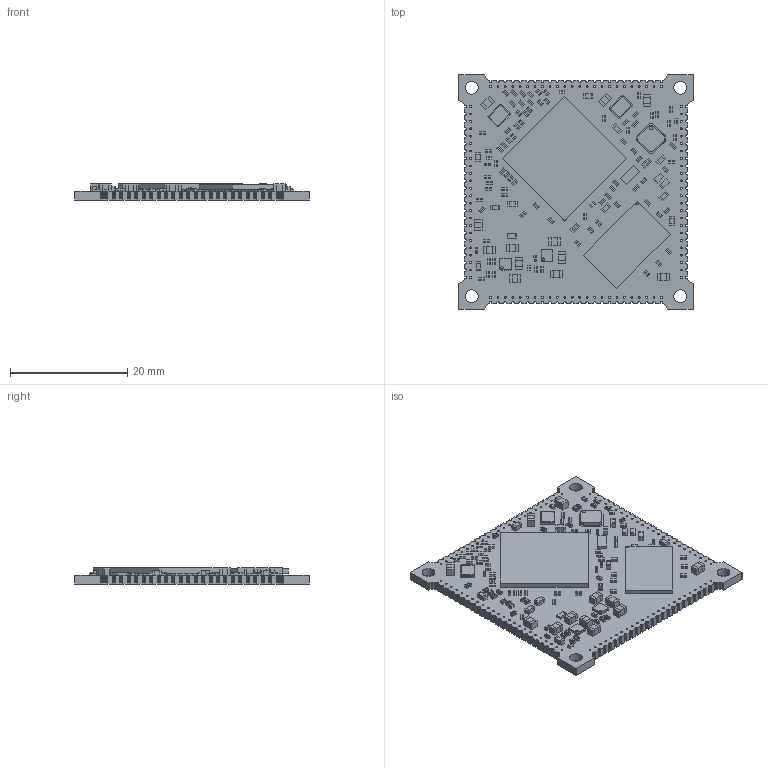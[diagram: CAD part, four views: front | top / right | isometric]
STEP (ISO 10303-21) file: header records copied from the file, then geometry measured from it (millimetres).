
FILE_DESCRIPTION(('Open CASCADE Model'),'2;1');
FILE_NAME('Open CASCADE Shape Model','2012-07-12T11:52:57',('Author'),( 'Open CASCADE'),'Open CASCADE STEP processor 6.2','Open CASCADE 6.2' ,'Unknown');
FILE_SCHEMA(('AUTOMOTIVE_DESIGN { 1 0 10303 214 1 1 1 1 }'));
Length unit declared in the file: millimetre
Products named in the file (303): PCB; Board; R41; 527013072; Extruded; 527013200; 527921472; R40; R39; 693281296; 693281552; R38; R37; R36; R35; R33; R32; R31; R29; L8; 527008848; 527009104; 693284240; L6; 500213888; 500213760; 693284368; C51; 527011920; 527012176; 527018960; C46; 500213632; C49; 527010768; 527011024; 527016656; C50; 527013456; 527016528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
Assembly tree (1091 placements, depth 4):
  PCB
    Board
    R41
      527013072  x2
        Extruded
      527013200
        Extruded
      527921472  x2
        Extruded
    R40
      527013072  x2
        Extruded
      527013200
        Extruded
      527921472  x2
        Extruded
    R39
      693281296  x2
        Extruded
      693281552
        Extruded
    R38
      527013072  x2
        Extruded
      527013200
        Extruded
      527921472  x2
        Extruded
    R37
      527013072  x2
        Extruded
      527013200
        Extruded
      527921472  x2
        Extruded
    R36
      527013072  x2
        Extruded
      527013200
        Extruded
      527921472  x2
        Extruded
    R35
      527013072  x2
        Extruded
      527013200
        Extruded
      527921472  x2
        Extruded
    R33
      527013072  x2
        Extruded
      527013200
        Extruded
      527921472  x2
        Extruded
    R32
      527013072  x2
        Extruded
      527013200
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Bounding box: 40.11 x 40.11 x 2.74 mm (x, y, z)
Volume: 2548.3 mm3; surface area: 5247.2 mm2
Topology: 880 solids, 880 shells, 5113 faces, 11849 edges, 7894 vertices
Faces by surface type: plane 4708, sphere 301, cylinder 104
Full cylindrical faces by diameter (mm): 0.3 x96, 0.4 x3, 0.6 x1, 2.2 x4
Entity records: 133472 total; most frequent: CARTESIAN_POINT 21072, DIRECTION 20851, LINE 14399, VECTOR 14399, ORIENTED_EDGE 9878, PCURVE 9878, DEFINITIONAL_REPRESENTATION 9878, EDGE_CURVE 4939
